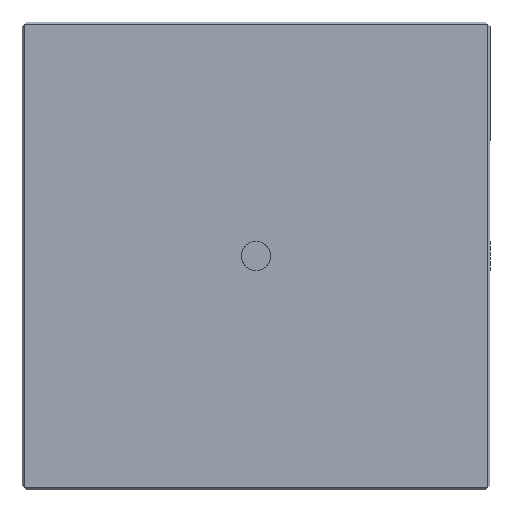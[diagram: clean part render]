
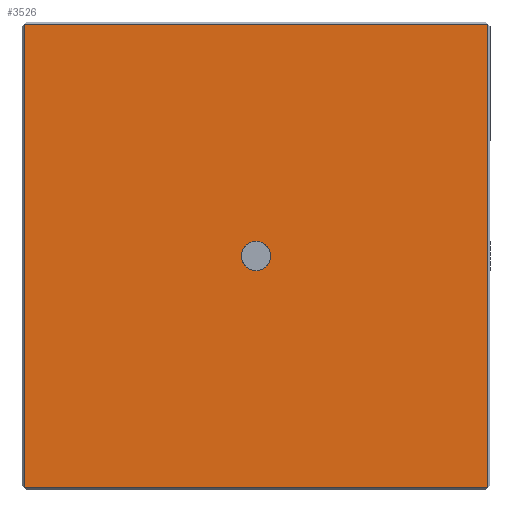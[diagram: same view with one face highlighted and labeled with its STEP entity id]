
A CAD part, front view. The second image highlights one B-rep face of the part: STEP entity #3526.
In plain terms, the highlighted planar face has unit normal (0, -1, 0).
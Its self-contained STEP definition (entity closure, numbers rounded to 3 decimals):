
#976 = CARTESIAN_POINT ( 'NONE',  ( -95., 0., 95. ) ) ;
#977 = CARTESIAN_POINT ( 'NONE',  ( 95., 0., 95. ) ) ;
#979 = CARTESIAN_POINT ( 'NONE',  ( 95., 0., -95. ) ) ;
#983 = CARTESIAN_POINT ( 'NONE',  ( -95., 0., -95. ) ) ;
#1031 = CARTESIAN_POINT ( 'NONE',  ( 0., 0., 6. ) ) ;
#1032 = CARTESIAN_POINT ( 'NONE',  ( 0., 0., -6. ) ) ;
#1144 = AXIS2_PLACEMENT_3D ( 'NONE', #5978, #5984, #5985 ) ;
#1155 = CIRCLE ( 'NONE', #1174, 6. ) ;
#1174 = AXIS2_PLACEMENT_3D ( 'NONE', #6035, #6036, #6037 ) ;
#1802 = AXIS2_PLACEMENT_3D ( 'NONE', #4901, #4902, #4903 ) ;
#1804 = CIRCLE ( 'NONE', #1802, 6. ) ;
#1805 = VECTOR ( 'NONE', #4899, 1000. ) ;
#1806 = VECTOR ( 'NONE', #4896, 1000. ) ;
#1808 = VECTOR ( 'NONE', #4891, 1000. ) ;
#1809 = VECTOR ( 'NONE', #4893, 1000. ) ;
#3526 = ADVANCED_FACE ( 'NONE', ( #5981, #5982 ), #5983, .F. ) ;
#3901 = EDGE_CURVE ( 'NONE', #5769, #5770, #1155, .T. ) ;
#3950 = EDGE_CURVE ( 'NONE', #5714, #5721, #4841, .T. ) ;
#3951 = EDGE_CURVE ( 'NONE', #5715, #5714, #4886, .T. ) ;
#3952 = EDGE_CURVE ( 'NONE', #5717, #5715, #4894, .T. ) ;
#3953 = EDGE_CURVE ( 'NONE', #5721, #5717, #4897, .T. ) ;
#3954 = EDGE_CURVE ( 'NONE', #5770, #5769, #1804, .T. ) ;
#4841 = LINE ( 'NONE', #4860, #1808 ) ;
#4860 = CARTESIAN_POINT ( 'NONE',  ( -95., 0., 96. ) ) ;
#4886 = LINE ( 'NONE', #4892, #1809 ) ;
#4891 = DIRECTION ( 'NONE',  ( 0., 0., -1. ) ) ;
#4892 = CARTESIAN_POINT ( 'NONE',  ( 96., 0., 95. ) ) ;
#4893 = DIRECTION ( 'NONE',  ( -1., 0., 0. ) ) ;
#4894 = LINE ( 'NONE', #4895, #1806 ) ;
#4895 = CARTESIAN_POINT ( 'NONE',  ( 95., 0., 96. ) ) ;
#4896 = DIRECTION ( 'NONE',  ( 0., 0., 1. ) ) ;
#4897 = LINE ( 'NONE', #4898, #1805 ) ;
#4898 = CARTESIAN_POINT ( 'NONE',  ( 96., 0., -95. ) ) ;
#4899 = DIRECTION ( 'NONE',  ( 1., 0., 0. ) ) ;
#4901 = CARTESIAN_POINT ( 'NONE',  ( 0., 0., 0. ) ) ;
#4902 = DIRECTION ( 'NONE',  ( 0., -1., 0. ) ) ;
#4903 = DIRECTION ( 'NONE',  ( 0., 0., -1. ) ) ;
#5227 = ORIENTED_EDGE ( 'NONE', *, *, #3950, .T. ) ;
#5228 = ORIENTED_EDGE ( 'NONE', *, *, #3951, .T. ) ;
#5229 = ORIENTED_EDGE ( 'NONE', *, *, #3952, .T. ) ;
#5230 = ORIENTED_EDGE ( 'NONE', *, *, #3953, .T. ) ;
#5231 = ORIENTED_EDGE ( 'NONE', *, *, #3901, .F. ) ;
#5232 = ORIENTED_EDGE ( 'NONE', *, *, #3954, .F. ) ;
#5544 = EDGE_LOOP ( 'NONE', ( #5232, #5231 ) ) ;
#5714 = VERTEX_POINT ( 'NONE', #976 ) ;
#5715 = VERTEX_POINT ( 'NONE', #977 ) ;
#5717 = VERTEX_POINT ( 'NONE', #979 ) ;
#5721 = VERTEX_POINT ( 'NONE', #983 ) ;
#5769 = VERTEX_POINT ( 'NONE', #1031 ) ;
#5770 = VERTEX_POINT ( 'NONE', #1032 ) ;
#5857 = EDGE_LOOP ( 'NONE', ( #5230, #5229, #5228, #5227 ) ) ;
#5978 = CARTESIAN_POINT ( 'NONE',  ( 96., 0., 96. ) ) ;
#5981 = FACE_BOUND ( 'NONE', #5544, .T. ) ;
#5982 = FACE_OUTER_BOUND ( 'NONE', #5857, .T. ) ;
#5983 = PLANE ( 'NONE',  #1144 ) ;
#5984 = DIRECTION ( 'NONE',  ( 0., 1., 0. ) ) ;
#5985 = DIRECTION ( 'NONE',  ( 0., 0., 1. ) ) ;
#6035 = CARTESIAN_POINT ( 'NONE',  ( 0., 0., 0. ) ) ;
#6036 = DIRECTION ( 'NONE',  ( 0., -1., 0. ) ) ;
#6037 = DIRECTION ( 'NONE',  ( 0., 0., -1. ) ) ;
